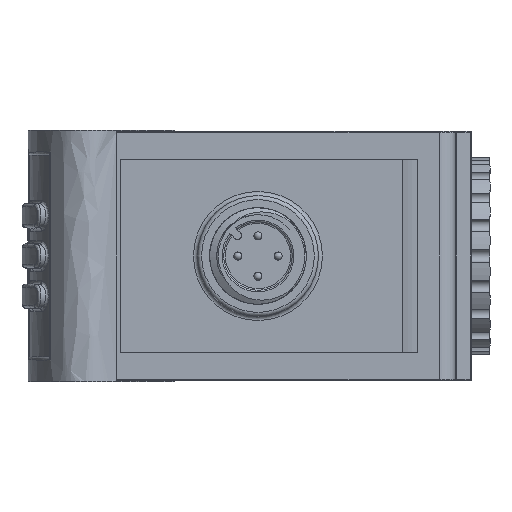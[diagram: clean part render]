
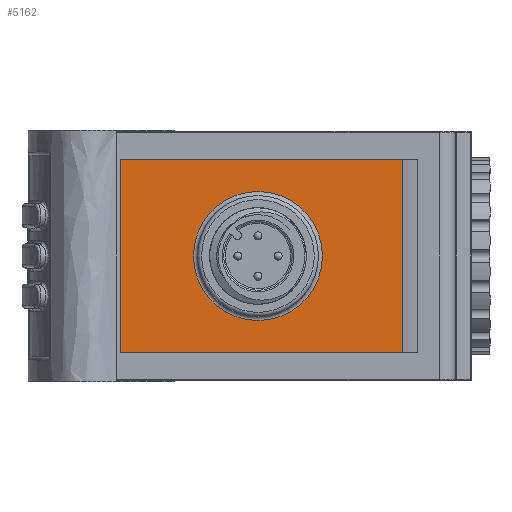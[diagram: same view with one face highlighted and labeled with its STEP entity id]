
A CAD part, front view. The second image highlights one B-rep face of the part: STEP entity #5162.
In plain terms, the highlighted planar face has unit normal (0, -1, 0).
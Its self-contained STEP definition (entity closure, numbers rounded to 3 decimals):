
#4163=LINE('',#22860,#4701);
#4164=LINE('',#22866,#4702);
#4166=LINE('',#22870,#4704);
#4167=LINE('',#22874,#4705);
#4701=VECTOR('',#16881,1.);
#4702=VECTOR('',#16888,1.);
#4704=VECTOR('',#16892,1.);
#4705=VECTOR('',#16897,1.);
#5162=ADVANCED_FACE('',(#5991,#5992),#5752,.F.);
#5752=PLANE('',#14648);
#5991=FACE_BOUND('',#6323,.T.);
#5992=FACE_BOUND('',#6324,.T.);
#6323=EDGE_LOOP('',(#8253));
#6324=EDGE_LOOP('',(#8254,#8255,#8256,#8257));
#8253=ORIENTED_EDGE('',*,*,#12589,.T.);
#8254=ORIENTED_EDGE('',*,*,#12583,.T.);
#8255=ORIENTED_EDGE('',*,*,#12588,.T.);
#8256=ORIENTED_EDGE('',*,*,#12586,.T.);
#8257=ORIENTED_EDGE('',*,*,#12590,.T.);
#11225=VERTEX_POINT('',#22859);
#11226=VERTEX_POINT('',#22861);
#11227=VERTEX_POINT('',#22865);
#11228=VERTEX_POINT('',#22867);
#11229=VERTEX_POINT('',#22873);
#12583=EDGE_CURVE('',#11226,#11225,#4163,.T.);
#12586=EDGE_CURVE('',#11228,#11227,#4164,.T.);
#12588=EDGE_CURVE('',#11225,#11228,#4166,.T.);
#12589=EDGE_CURVE('',#11229,#11229,#13757,.T.);
#12590=EDGE_CURVE('',#11227,#11226,#4167,.T.);
#13757=CIRCLE('',#14647,8.);
#14647=AXIS2_PLACEMENT_3D('',#22872,#16895,#16896);
#14648=AXIS2_PLACEMENT_3D('',#22875,#16898,#16899);
#16881=DIRECTION('',(-1.,0.,0.));
#16888=DIRECTION('',(1.,0.,0.));
#16892=DIRECTION('',(0.,0.,-1.));
#16895=DIRECTION('',(0.,1.,0.));
#16896=DIRECTION('',(0.,0.,1.));
#16897=DIRECTION('',(0.,0.,1.));
#16898=DIRECTION('',(0.,1.,0.));
#16899=DIRECTION('',(0.,0.,1.));
#22859=CARTESIAN_POINT('',(11.5,0.2,27.5));
#22860=CARTESIAN_POINT('',(11.5,0.2,27.5));
#22861=CARTESIAN_POINT('',(46.5,0.2,27.5));
#22865=CARTESIAN_POINT('',(46.5,0.2,3.5));
#22866=CARTESIAN_POINT('',(46.5,0.2,3.5));
#22867=CARTESIAN_POINT('',(11.5,0.2,3.5));
#22870=CARTESIAN_POINT('',(11.5,0.2,3.5));
#22872=CARTESIAN_POINT('',(28.5,0.2,15.5));
#22873=CARTESIAN_POINT('',(28.5,0.2,23.5));
#22874=CARTESIAN_POINT('',(46.5,0.2,27.5));
#22875=CARTESIAN_POINT('',(0.,0.2,0.));
